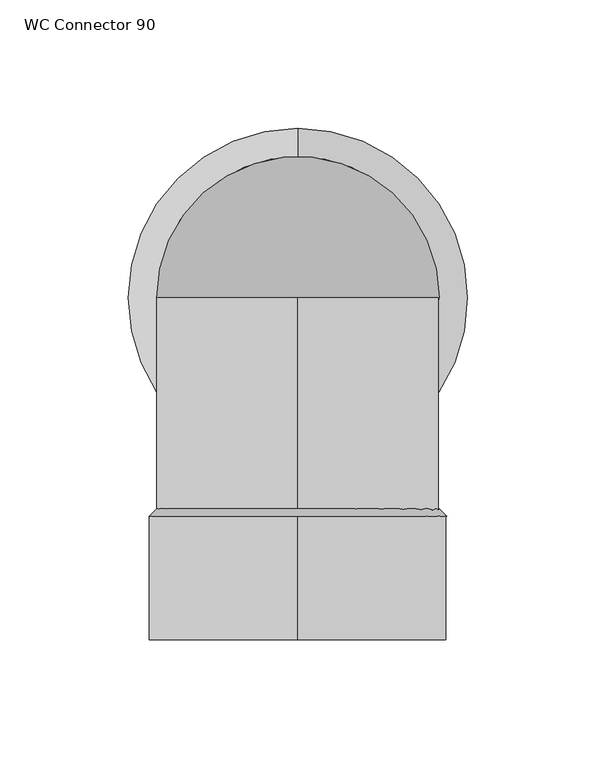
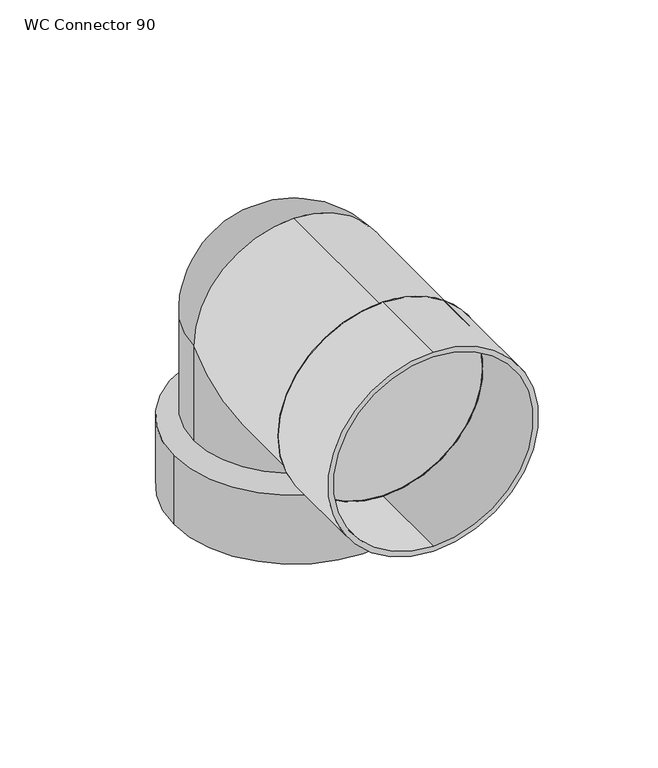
"""IFC4 building model written with IfcOpenShell, lengths in millimetres: pipe fitting geometry, Wavin_PipeAccessory_OsmaAccessoriesWcConnector90° : WC Connector 90."""

from ifc_helpers import new_model, si_unit, point, frame, origin, origin_2d, place, context, project, spatial, polyline, circle_curve, ellipse_curve, trimmed, segment, composite_curve, outline, extrude, source, transform, mapped, element, save
from ifc_brep_helpers import plane_surface, cylinder_surface, revolved_surface, advanced_brep


def wc_connector_90_f06ec1d6(model_context):
    return source(origin(), model_context, "Body", "SolidModel", [
        advanced_brep(
        [(55.0, 50.9, 0.0), (-55.0, 50.9, 0.0), (-57.9, 48.0, 0.0), (57.9, 48.0, 0.0), (55.0, 48.0, 0.0), (-55.0, 48.0, 0.0)],
        [
            (0, 1, circle_curve(frame((0.0, 50.9, 0.0), z_axis=(0.0, -1.0, 0.0), x_axis=(-1.0, 0.0, 0.0)), 55.0)),
            (1, 2),
            (2, 3, circle_curve(frame((0.0, 48.0, 0.0), z_axis=(0.0, 1.0, 0.0), x_axis=(-1.0, 0.0, 0.0)), 57.9)),
            (3, 0),
            (1, 0, circle_curve(frame((0.0, 50.9, 0.0), z_axis=(0.0, -1.0, 0.0), x_axis=(1.0, 0.0, 0.0)), 55.0)),
            (3, 2, circle_curve(frame((0.0, 48.0, 0.0), z_axis=(0.0, 1.0, 0.0), x_axis=(1.0, 0.0, 0.0)), 57.9)),
            (4, 5, circle_curve(frame((0.0, 48.0, 0.0), z_axis=(0.0, 1.0, 0.0), x_axis=(1.0, 0.0, 0.0)), 55.0)),
            (5, 4, circle_curve(frame((0.0, 48.0, 0.0), z_axis=(0.0, 1.0, 0.0), x_axis=(-1.0, 0.0, 0.0)), 55.0)),
            (5, 1),
            (0, 4),
        ],
        [
            revolved_surface(polyline([(-57.9, 48.0, 0.0), (-55.0, 50.9, 0.0)]), (0.0, 48.0, 0.0), (0.0, 1.0, 0.0)),
            revolved_surface(polyline([(57.9, 48.0, 0.0), (55.0, 50.9, 0.0)]), (0.0, 48.0, 0.0), (0.0, 1.0, 0.0)),
            plane_surface(frame((0.0, 48.0, 0.0), z_axis=(0.0, -1.0, 0.0), x_axis=(1.0, 0.0, 0.0))),
            revolved_surface(polyline([(-55.0, 50.9, 0.0), (-55.0, 48.0, 0.0)]), (0.0, 48.0, 0.0), (0.0, 1.0, 0.0)),
            revolved_surface(polyline([(55.0, 50.9, 0.0), (55.0, 48.0, 0.0)]), (0.0, 48.0, 0.0), (0.0, 1.0, 0.0)),
        ],
        [
            (0, [[1, 2, 3, 4]]),
            (1, [[5, -4, 6, -2]]),
            (2, [[-6, -3], [7, 8]]),
            (3, [[-8, 9, -1, 10]]),
            (4, [[-7, -10, -5, -9]]),
        ],
    ),
        extrude(outline(composite_curve([segment(trimmed(circle_curve(origin_2d(), 57.9), [point((-57.9, 0.0))], [point((57.9, 0.0))], False, "CARTESIAN"), True, "CONTINUOUS"), segment(trimmed(circle_curve(origin_2d(), 57.9), [point((57.9, 0.0))], [point((-57.9, 0.0))], False, "CARTESIAN"), True, "CONTINUOUS")], self_intersect=False), holes=[composite_curve([segment(trimmed(circle_curve(origin_2d(), 55.0), [point((-55.0, 0.0))], [point((55.0, 0.0))], True, "CARTESIAN"), True, "CONTINUOUS"), segment(trimmed(circle_curve(origin_2d(), 55.0), [point((55.0, 0.0))], [point((-55.0, 0.0))], True, "CARTESIAN"), True, "CONTINUOUS")], self_intersect=False)]), frame((0.0, 0.0, 0.0), z_axis=(0.0, 1.0, 0.0), x_axis=(0.0, 0.0, 1.0)), (0.0, 0.0, 1.0), 48.0),
        advanced_brep(
        [(0.0, 48.0, -55.0), (0.0, 48.0, 55.0), (0.0, 78.0, -55.0), (55.0, 133.0, 0.0), (0.0, 133.0, 55.0), (-55.0, 133.0, 0.0), (-55.0, 133.0, -60.0), (55.0, 133.0, -60.0), (55.0, 133.0, -55.0), (-55.0, 133.0, -55.0), (0.0, 188.0, -55.0), (-66.0, 133.0, -100.0), (66.0, 133.0, -100.0), (-55.0, 133.0, -100.0), (55.0, 133.0, -100.0), (66.0, 133.0, -60.0), (0.0, 67.0, -60.0), (-66.0, 133.0, -60.0), (0.0, 199.0, -60.0)],
        [
            (0, 1, circle_curve(frame((0.0, 48.0, 0.0), z_axis=(0.0, -1.0, 0.0), x_axis=(0.0, 0.0, 1.0)), 55.0)),
            (1, 0, circle_curve(frame((0.0, 48.0, 0.0), z_axis=(0.0, -1.0, 0.0), x_axis=(0.0, 0.0, 1.0)), 55.0)),
            (0, 2),
            (2, 3, ellipse_curve(frame((0.0, 133.0, 0.0), z_axis=(0.0, -0.7071067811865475, 0.7071067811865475), x_axis=(0.0, -0.7071067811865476, -0.7071067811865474)), 77.7817459, 55.0)),
            (3, 4, circle_curve(frame((0.0, 133.0, 0.0), z_axis=(0.0, -1.0, 0.0), x_axis=(0.0, 0.0, 1.0)), 55.0)),
            (4, 1),
            (4, 5, circle_curve(frame((0.0, 133.0, 0.0), z_axis=(0.0, -1.0, 0.0), x_axis=(0.0, 0.0, 1.0)), 55.0)),
            (5, 2, ellipse_curve(frame((0.0, 133.0, 0.0), z_axis=(0.0, -0.7071067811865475, 0.7071067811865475), x_axis=(0.0, -0.7071067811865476, -0.7071067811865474)), 77.7817459, 55.0)),
            (6, 7, circle_curve(frame((0.0, 133.0, -60.0), z_axis=(0.0, 0.0, -1.0), x_axis=(1.0, 0.0, 0.0)), 55.0)),
            (7, 6, circle_curve(frame((0.0, 133.0, -60.0), z_axis=(0.0, 0.0, -1.0), x_axis=(1.0, 0.0, 0.0)), 55.0)),
            (2, 8, circle_curve(frame((0.0, 133.0, -55.0), z_axis=(0.0, 0.0, 1.0), x_axis=(1.0, 0.0, 0.0)), 55.0)),
            (8, 3),
            (5, 9),
            (9, 2, circle_curve(frame((0.0, 133.0, -55.0), z_axis=(0.0, 0.0, 1.0), x_axis=(1.0, 0.0, 0.0)), 55.0)),
            (5, 3, circle_curve(frame((0.0, 133.0, 0.0), z_axis=(0.0, 0.0, -1.0), x_axis=(1.0, 0.0, 0.0)), 55.0)),
            (8, 10, circle_curve(frame((0.0, 133.0, -55.0), z_axis=(0.0, 0.0, 1.0), x_axis=(1.0, 0.0, 0.0)), 55.0)),
            (10, 9, circle_curve(frame((0.0, 133.0, -55.0), z_axis=(0.0, 0.0, 1.0), x_axis=(1.0, 0.0, 0.0)), 55.0)),
            (11, 12, circle_curve(frame((0.0, 133.0, -100.0), z_axis=(0.0, 0.0, -1.0), x_axis=(1.0, 0.0, 0.0)), 66.0)),
            (12, 11, circle_curve(frame((0.0, 133.0, -100.0), z_axis=(0.0, 0.0, -1.0), x_axis=(1.0, 0.0, 0.0)), 66.0)),
            (13, 14, circle_curve(frame((0.0, 133.0, -100.0), z_axis=(0.0, 0.0, 1.0), x_axis=(1.0, 0.0, 0.0)), 55.0)),
            (14, 13, circle_curve(frame((0.0, 133.0, -100.0), z_axis=(0.0, 0.0, 1.0), x_axis=(1.0, 0.0, 0.0)), 55.0)),
            (12, 15),
            (15, 16, circle_curve(frame((0.0, 133.0, -60.0), z_axis=(0.0, 0.0, -1.0), x_axis=(1.0, 0.0, 0.0)), 66.0)),
            (16, 17, circle_curve(frame((0.0, 133.0, -60.0), z_axis=(0.0, 0.0, -1.0), x_axis=(1.0, 0.0, 0.0)), 66.0)),
            (17, 11),
            (17, 18, circle_curve(frame((0.0, 133.0, -60.0), z_axis=(0.0, 0.0, -1.0), x_axis=(1.0, 0.0, 0.0)), 66.0)),
            (18, 15, circle_curve(frame((0.0, 133.0, -60.0), z_axis=(0.0, 0.0, -1.0), x_axis=(1.0, 0.0, 0.0)), 66.0)),
            (14, 7),
            (6, 13),
            (10, 18),
            (16, 2),
        ],
        [
            plane_surface(frame((0.0, 48.0, 0.0), z_axis=(0.0, -1.0, 0.0), x_axis=(1.0, 0.0, 0.0))),
            cylinder_surface(frame((0.0, 48.0, 0.0), z_axis=(0.0, -1.0, 0.0), x_axis=(0.0, 0.0, 1.0)), 55.0),
            plane_surface(frame((0.0, 133.0, -60.0), z_axis=(0.0, 0.0, -1.0), x_axis=(1.0, 0.0, 0.0))),
            cylinder_surface(frame((0.0, 133.0, 0.0), z_axis=(0.0, 0.0, 1.0), x_axis=(1.0, 0.0, 0.0)), 55.0),
            revolved_surface(trimmed(ellipse_curve(frame((0.0, 133.0, 0.0), z_axis=(0.0, 0.0, -1.0000000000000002), x_axis=(0.0, -1.0000000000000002, 0.0)), 55.0, 55.0), [point((-55.0, 133.0, 0.0))], [point((55.0, 133.0, 0.0))], True, "CARTESIAN"), (1087.1467391, 133.0, 0.0), (1.0, 0.0, 0.0)),
            plane_surface(frame((0.0, 133.0, -100.0), z_axis=(0.0, 0.0, -1.0), x_axis=(1.0, 0.0, 0.0))),
            cylinder_surface(frame((0.0, 133.0, -60.0), z_axis=(0.0, 0.0, 1.0), x_axis=(1.0, 0.0, 0.0)), 66.0),
            revolved_surface(polyline([(55.0, 133.0, -100.0), (55.0, 133.0, -60.0)]), (0.0, 133.0, -60.0), (0.0, 0.0, -1.0)),
            revolved_surface(polyline([(0.0, 199.0, -60.0), (0.0, 188.0, -55.0)]), (0.0, 133.0, -60.0), (0.0, 0.0, 1.0)),
            revolved_surface(polyline([(0.0, 67.0, -60.0), (0.0, 78.0, -55.0)]), (0.0, 133.0, -60.0), (0.0, 0.0, 1.0)),
        ],
        [
            (0, [[1, 2]]),
            (1, [[-1, 3, 4, 5, 6]]),
            (1, [[-2, -6, 7, 8, -3]]),
            (2, [[9, 10]]),
            (3, [[-4, 11, 12]]),
            (3, [[-8, 13, 14]]),
            (3, [[-13, 15, -12, 16, 17]]),
            (4, [[-5, -15, -7]]),
            (5, [[18, 19], [20, 21]]),
            (6, [[-19, 22, 23, 24, 25]]),
            (6, [[-18, -25, 26, 27, -22]]),
            (7, [[-21, 28, -9, 29]]),
            (7, [[-20, -29, -10, -28]]),
            (8, [[30, -26, -24, 31, -14, -17]]),
            (9, [[-30, -16, -11, -31, -23, -27]]),
        ],
    ),
    ])


if __name__ == "__main__":
    model = new_model("IFC4")
    model_context = context("Model", 3, world=origin())
    ifc_project = project(units=[si_unit("LENGTHUNIT", "METRE", prefix="MILLI")], contexts=[model_context])
    site = spatial("IfcSite", under=ifc_project)
    building = spatial("IfcBuilding", under=site)
    placement = place(None, origin())
    wc_connector_90_shape = wc_connector_90_f06ec1d6(model_context)
    element("IfcPipeFitting", 1, ObjectType="Wavin_PipeAccessory_OsmaAccessoriesWcConnector90° : WC Connector 90", at=placement, inside=building, context=model_context, shape_type="MappedRepresentation", body=[
        mapped(wc_connector_90_shape, transform((0.0, 0.0, 0.0), x_axis=(1.0, 0.0, 0.0), y_axis=(0.0, 1.0, 0.0), z_axis=(0.0, 0.0, 1.0))),
    ])
    save(model, "model.ifc")
